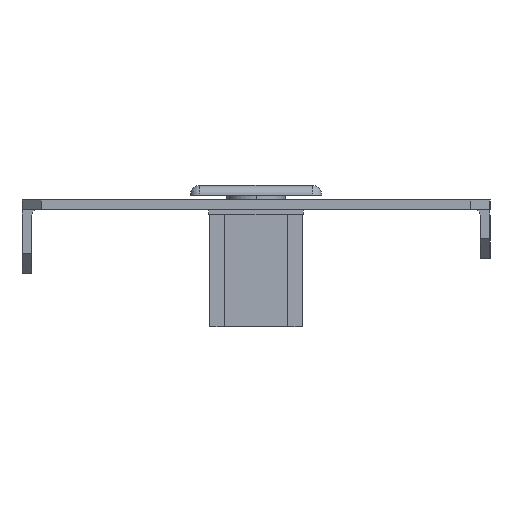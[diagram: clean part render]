
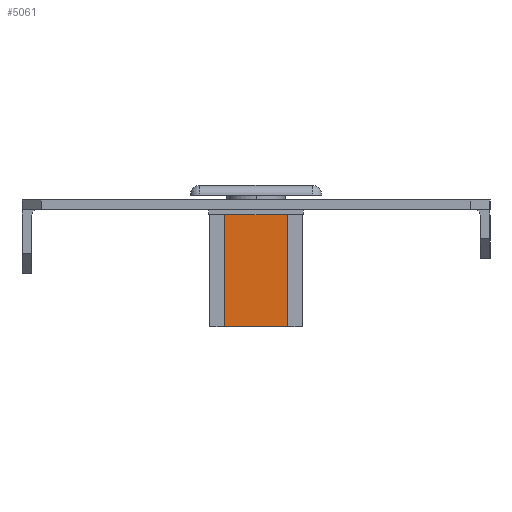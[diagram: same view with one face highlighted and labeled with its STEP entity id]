
A CAD part, left-side view. The second image highlights one B-rep face of the part: STEP entity #5061.
In plain terms, the highlighted planar face has unit normal (-1, 0, 0) as drawn and (0, 0, -1) by its records, which use the part's own axes.
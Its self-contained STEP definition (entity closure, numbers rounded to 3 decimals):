
#2956=CARTESIAN_POINT(' ',(-3.25,-13.,-3.75));
#2957=VERTEX_POINT(' ',#2956);
#2971=CARTESIAN_POINT(' ',(-3.25,-13.,-3.75));
#2976=DIRECTION(' ',(1.,0.,0.));
#2981=VECTOR(' ',#2976,1.);
#2986=LINE('',#2971,#2981);
#2991=CARTESIAN_POINT(' ',(3.25,-13.,-3.75));
#2992=VERTEX_POINT(' ',#2991);
#2996=EDGE_CURVE(' ',#2957,#2992,#2986,.T.);
#3826=CARTESIAN_POINT(' ',(3.25,0.,-3.75));
#3827=VERTEX_POINT(' ',#3826);
#3841=CARTESIAN_POINT(' ',(-3.25,0.,-3.75));
#3846=DIRECTION(' ',(1.,0.,0.));
#3851=VECTOR(' ',#3846,1.);
#3856=LINE('',#3841,#3851);
#3861=CARTESIAN_POINT(' ',(-3.25,0.,-3.75));
#3862=VERTEX_POINT(' ',#3861);
#3866=EDGE_CURVE(' ',#3862,#3827,#3856,.T.);
#4926=CARTESIAN_POINT(' ',(-3.25,-13.,-3.75));
#4931=DIRECTION(' ',(0.,1.,0.));
#4936=VECTOR(' ',#4931,1.);
#4941=LINE('',#4926,#4936);
#4946=EDGE_CURVE(' ',#2957,#3862,#4941,.T.);
#4981=DIRECTION(' ',(-0.,-0.,-1.));
#4986=CARTESIAN_POINT(' ',(-3.25,-13.,-3.75));
#4991=DIRECTION(' ',(-0.,1.,0.));
#4996=AXIS2_PLACEMENT_3D(' ',#4986,#4981,#4991);
#5001=PLANE('NONE',#4996);
#5006=ORIENTED_EDGE(' ',*,*,#3866,.T.);
#5011=CARTESIAN_POINT(' ',(3.25,-13.,-3.75));
#5016=DIRECTION(' ',(0.,1.,0.));
#5021=VECTOR(' ',#5016,1.);
#5026=LINE('',#5011,#5021);
#5031=EDGE_CURVE(' ',#2992,#3827,#5026,.T.);
#5036=ORIENTED_EDGE(' ',*,*,#5031,.F.);
#5041=ORIENTED_EDGE(' ',*,*,#2996,.F.);
#5046=ORIENTED_EDGE(' ',*,*,#4946,.T.);
#5051=EDGE_LOOP(' ',(#5006,#5036,#5041,#5046));
#5056=FACE_OUTER_BOUND(' ',#5051,.T.);
#5061=ADVANCED_FACE('NONE',(#5056),#5001,.T.);
